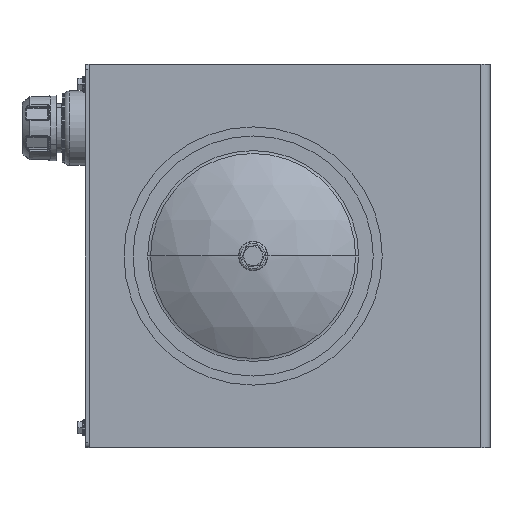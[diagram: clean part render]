
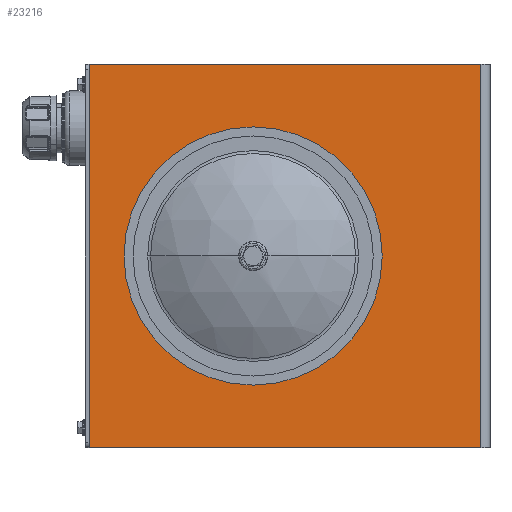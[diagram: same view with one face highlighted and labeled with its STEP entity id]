
A CAD part, left-side view. The second image highlights one B-rep face of the part: STEP entity #23216.
In plain terms, the highlighted planar face has unit normal (-1, 0, 0).
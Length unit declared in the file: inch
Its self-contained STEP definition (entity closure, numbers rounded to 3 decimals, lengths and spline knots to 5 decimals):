
#665 = FACE_OUTER_BOUND ( 'NONE', #3853, .T. ) ;
#777 = LINE ( 'NONE', #15689, #5443 ) ;
#1524 = VERTEX_POINT ( 'NONE', #27814 ) ;
#2378 = CARTESIAN_POINT ( 'NONE',  ( -15.29857, -11.85618, -7.52323 ) ) ;
#3191 = CARTESIAN_POINT ( 'NONE',  ( -15.29857, 6.52702, -7.52323 ) ) ;
#3853 = EDGE_LOOP ( 'NONE', ( #20583, #14852, #7007, #17367 ) ) ;
#4126 = EDGE_LOOP ( 'NONE', ( #8021, #27058 ) ) ;
#5443 = VECTOR ( 'NONE', #6584, 39.37008 ) ;
#6358 = DIRECTION ( 'NONE',  ( 0., 0., -1. ) ) ;
#6584 = DIRECTION ( 'NONE',  ( 0., 1., 0. ) ) ;
#6636 = EDGE_CURVE ( 'NONE', #8669, #8336, #20852, .T. ) ;
#7007 = ORIENTED_EDGE ( 'NONE', *, *, #21168, .T. ) ;
#7677 = AXIS2_PLACEMENT_3D ( 'NONE', #26939, #20073, #6358 ) ;
#8021 = ORIENTED_EDGE ( 'NONE', *, *, #17363, .F. ) ;
#8096 = EDGE_CURVE ( 'NONE', #20524, #22662, #27596, .T. ) ;
#8288 = CARTESIAN_POINT ( 'NONE',  ( -15.29857, -1.16298, 6.47677 ) ) ;
#8336 = VERTEX_POINT ( 'NONE', #2378 ) ;
#8628 = CARTESIAN_POINT ( 'NONE',  ( -15.29857, 6.52702, -7.52323 ) ) ;
#8669 = VERTEX_POINT ( 'NONE', #3191 ) ;
#10231 = CARTESIAN_POINT ( 'NONE',  ( -15.29857, -1.16298, 1.47677 ) ) ;
#10646 = AXIS2_PLACEMENT_3D ( 'NONE', #10231, #26270, #12492 ) ;
#10669 = DIRECTION ( 'NONE',  ( -1., 0., 0. ) ) ;
#10686 = CARTESIAN_POINT ( 'NONE',  ( -15.29857, -1.16298, -3.52323 ) ) ;
#10708 = CIRCLE ( 'NONE', #19732, 5. ) ;
#12492 = DIRECTION ( 'NONE',  ( 0., 0., 1. ) ) ;
#13534 = CARTESIAN_POINT ( 'NONE',  ( -15.29857, -11.85618, -7.52323 ) ) ;
#14629 = EDGE_CURVE ( 'NONE', #23045, #1524, #777, .T. ) ;
#14852 = ORIENTED_EDGE ( 'NONE', *, *, #14629, .T. ) ;
#15500 = DIRECTION ( 'NONE',  ( 0., 0., -1. ) ) ;
#15689 = CARTESIAN_POINT ( 'NONE',  ( -15.29857, -12.28548, 10.47677 ) ) ;
#15819 = DIRECTION ( 'NONE',  ( 0., 0., 1. ) ) ;
#16232 = VECTOR ( 'NONE', #15819, 39.37008 ) ;
#16277 = VECTOR ( 'NONE', #15500, 39.37008 ) ;
#17363 = EDGE_CURVE ( 'NONE', #22662, #20524, #10708, .T. ) ;
#17367 = ORIENTED_EDGE ( 'NONE', *, *, #6636, .T. ) ;
#17762 = PLANE ( 'NONE',  #7677 ) ;
#18934 = FACE_BOUND ( 'NONE', #4126, .T. ) ;
#19732 = AXIS2_PLACEMENT_3D ( 'NONE', #24365, #10669, #26722 ) ;
#20073 = DIRECTION ( 'NONE',  ( 1., 0., 0. ) ) ;
#20094 = VECTOR ( 'NONE', #29087, 39.37008 ) ;
#20378 = CARTESIAN_POINT ( 'NONE',  ( -15.29857, -12.28548, -7.52323 ) ) ;
#20524 = VERTEX_POINT ( 'NONE', #10686 ) ;
#20583 = ORIENTED_EDGE ( 'NONE', *, *, #27449, .T. ) ;
#20852 = LINE ( 'NONE', #20378, #20094 ) ;
#21168 = EDGE_CURVE ( 'NONE', #1524, #8669, #28489, .T. ) ;
#22662 = VERTEX_POINT ( 'NONE', #8288 ) ;
#23045 = VERTEX_POINT ( 'NONE', #26256 ) ;
#23216 = ADVANCED_FACE ( 'NONE', ( #18934, #665 ), #17762, .F. ) ;
#23736 = LINE ( 'NONE', #13534, #16232 ) ;
#24365 = CARTESIAN_POINT ( 'NONE',  ( -15.29857, -1.16298, 1.47677 ) ) ;
#26256 = CARTESIAN_POINT ( 'NONE',  ( -15.29857, -11.85618, 10.47677 ) ) ;
#26270 = DIRECTION ( 'NONE',  ( -1., 0., 0. ) ) ;
#26722 = DIRECTION ( 'NONE',  ( 0., 0., 1. ) ) ;
#26939 = CARTESIAN_POINT ( 'NONE',  ( -15.29857, 6.52702, -7.52323 ) ) ;
#27058 = ORIENTED_EDGE ( 'NONE', *, *, #8096, .F. ) ;
#27449 = EDGE_CURVE ( 'NONE', #8336, #23045, #23736, .T. ) ;
#27596 = CIRCLE ( 'NONE', #10646, 5. ) ;
#27814 = CARTESIAN_POINT ( 'NONE',  ( -15.29857, 6.52702, 10.47677 ) ) ;
#28489 = LINE ( 'NONE', #8628, #16277 ) ;
#29087 = DIRECTION ( 'NONE',  ( 0., -1., 0. ) ) ;
